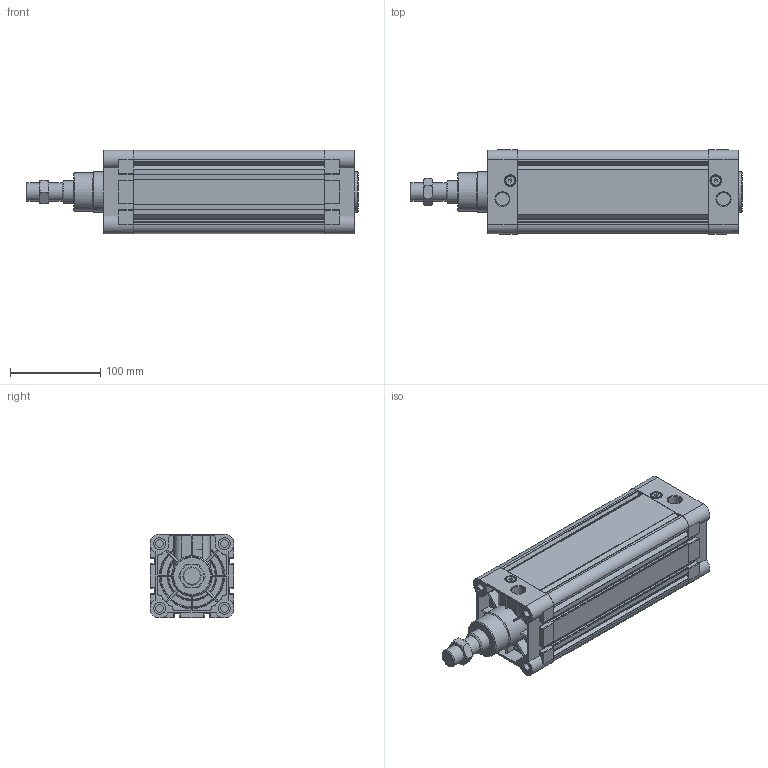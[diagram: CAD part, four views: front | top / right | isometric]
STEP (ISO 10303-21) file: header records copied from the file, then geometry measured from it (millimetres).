
FILE_DESCRIPTION( ( 'STEP AP214' ), '1' );
FILE_NAME( 'C:/Users/emc02044/Desktop/FVBC/FVBC80X150-S.stp', '2026-07-20T06:55:58', ( 'License CC BY-ND 4.0' ), ( 'CADENAS' ), ' ', 'PARTsolutions', ' ' );
FILE_SCHEMA( ( 'AUTOMOTIVE_DESIGN { 1 0 10303 214 1 1 1 1 }' ) );
Length unit declared in the file: millimetre
Products named in the file (3): FVBC80X150-0-S()(0); _FVB80x150()_fvbc_body ; _80X150-0_rod
Assembly tree (2 placements, depth 2):
  FVBC80X150-0-S()(0)
    _FVB80x150()_fvbc_body 
    _80X150-0_rod
Bounding box: 368 x 93 x 93 mm (x, y, z)
Volume: 1482490.5 mm3; surface area: 280558.7 mm2
Topology: 2 solids, 8 shells, 731 faces, 1974 edges, 1292 vertices
Faces by surface type: plane 353, cylinder 267, torus 57, cone 54
Full cylindrical faces by diameter (mm): 4 x2, 6.4 x2, 8.376 x8, 8.4 x2, 10 x4, 10.8 x2, 12 x6, 13 x8, 14.95 x2, 20 x2, 25 x3, 30 x2, 43 x1, 45 x2, 80 x2
Entity records: 29163 total; most frequent: CARTESIAN_POINT 5032, DIRECTION 3857, ORIENTED_EDGE 3746, EDGE_CURVE 1873, AXIS2_PLACEMENT_3D 1446, VERTEX_POINT 1271, LINE 965, VECTOR 965
